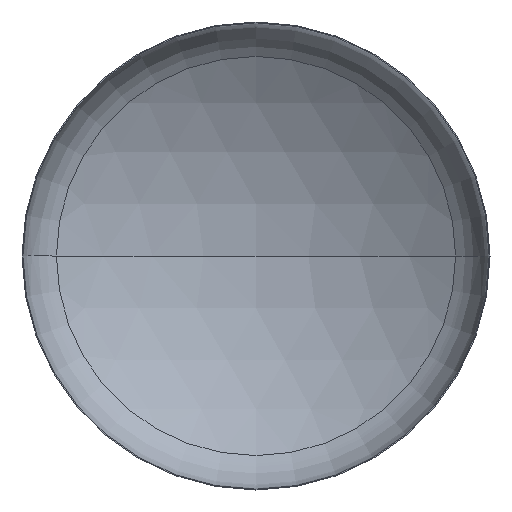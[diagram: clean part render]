
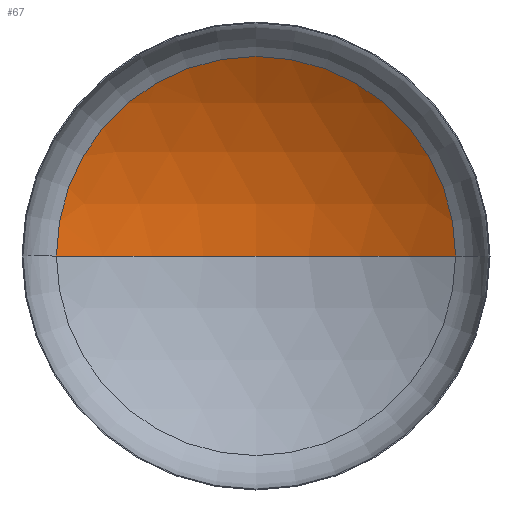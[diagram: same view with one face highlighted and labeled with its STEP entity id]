
A CAD part, front view. The second image highlights one B-rep face of the part: STEP entity #67.
In plain terms, the highlighted spherical face has radius 4400 mm.
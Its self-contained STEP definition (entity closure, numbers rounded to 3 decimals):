
#5 = VERTEX_POINT ( 'NONE', #289 ) ;
#21 = CARTESIAN_POINT ( 'NONE',  ( 0., 1422.177, 0. ) ) ;
#38 = DIRECTION ( 'NONE',  ( 0., 0., -1. ) ) ;
#44 = DIRECTION ( 'NONE',  ( -1., 0., 0. ) ) ;
#67 = ADVANCED_FACE ( 'NONE', ( #359 ), #116, .F. ) ;
#77 = EDGE_CURVE ( 'NONE', #161, #5, #351, .T. ) ;
#80 = EDGE_CURVE ( 'NONE', #336, #161, #189, .T. ) ;
#84 = EDGE_CURVE ( 'NONE', #336, #5, #269, .T. ) ;
#85 = DIRECTION ( 'NONE',  ( 0., 0., -1. ) ) ;
#116 = SPHERICAL_SURFACE ( 'NONE', #141, 4400. ) ;
#135 = ORIENTED_EDGE ( 'NONE', *, *, #77, .T. ) ;
#141 = AXIS2_PLACEMENT_3D ( 'NONE', #350, #38, #44 ) ;
#152 = CARTESIAN_POINT ( 'NONE',  ( 0., -2977.823, 0. ) ) ;
#161 = VERTEX_POINT ( 'NONE', #242 ) ;
#179 = DIRECTION ( 'NONE',  ( 1., 0., 0. ) ) ;
#186 = EDGE_LOOP ( 'NONE', ( #271, #224, #135 ) ) ;
#189 = CIRCLE ( 'NONE', #335, 4400. ) ;
#206 = DIRECTION ( 'NONE',  ( 0., -1., 0. ) ) ;
#224 = ORIENTED_EDGE ( 'NONE', *, *, #80, .T. ) ;
#242 = CARTESIAN_POINT ( 'NONE',  ( 2345.429, 744.94, 0. ) ) ;
#267 = CARTESIAN_POINT ( 'NONE',  ( 0., -2977.823, 0. ) ) ;
#269 = CIRCLE ( 'NONE', #319, 4400. ) ;
#271 = ORIENTED_EDGE ( 'NONE', *, *, #84, .F. ) ;
#289 = CARTESIAN_POINT ( 'NONE',  ( -2345.429, 744.94, 0. ) ) ;
#299 = DIRECTION ( 'NONE',  ( -1., 0., 0. ) ) ;
#319 = AXIS2_PLACEMENT_3D ( 'NONE', #152, #358, #179 ) ;
#335 = AXIS2_PLACEMENT_3D ( 'NONE', #267, #85, #299 ) ;
#336 = VERTEX_POINT ( 'NONE', #21 ) ;
#350 = CARTESIAN_POINT ( 'NONE',  ( 0., -2977.823, 0. ) ) ;
#351 = CIRCLE ( 'NONE', #355, 2345.429 ) ;
#355 = AXIS2_PLACEMENT_3D ( 'NONE', #383, #206, #411 ) ;
#358 = DIRECTION ( 'NONE',  ( 0., 0., 1. ) ) ;
#359 = FACE_OUTER_BOUND ( 'NONE', #186, .T. ) ;
#383 = CARTESIAN_POINT ( 'NONE',  ( 0., 744.94, 0. ) ) ;
#411 = DIRECTION ( 'NONE',  ( 1., 0., 0. ) ) ;
